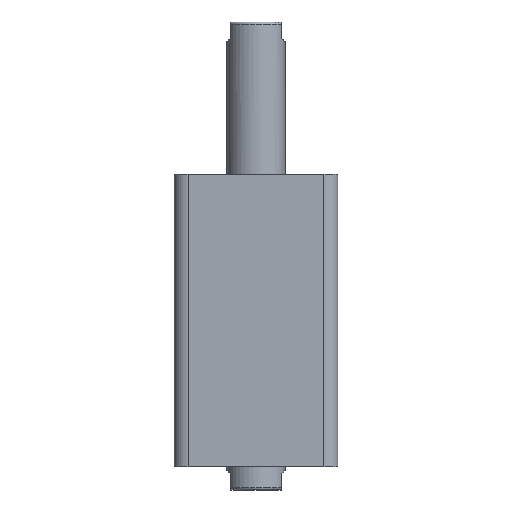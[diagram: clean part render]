
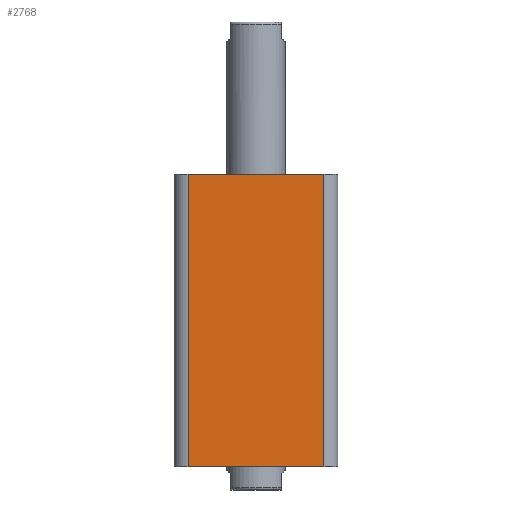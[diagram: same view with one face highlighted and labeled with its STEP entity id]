
A CAD part, front view. The second image highlights one B-rep face of the part: STEP entity #2768.
In plain terms, the highlighted planar face has unit normal (0, -1, 0).
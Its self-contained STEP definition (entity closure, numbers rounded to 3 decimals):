
#66 = VERTEX_POINT ( 'NONE', #1959 ) ;
#67 = VERTEX_POINT ( 'NONE', #1960 ) ;
#68 = VERTEX_POINT ( 'NONE', #1961 ) ;
#684 = ORIENTED_EDGE ( 'NONE', *, *, #1254, .T. ) ;
#815 = CARTESIAN_POINT ( 'NONE',  ( -35., -35., 0. ) ) ;
#825 = CARTESIAN_POINT ( 'NONE',  ( -35., -35., 125. ) ) ;
#826 = DIRECTION ( 'NONE',  ( 1., 0., 0. ) ) ;
#827 = CARTESIAN_POINT ( 'NONE',  ( -29., -35., 125. ) ) ;
#828 = DIRECTION ( 'NONE',  ( 0., 0., -1. ) ) ;
#829 = DIRECTION ( 'NONE',  ( 1., 0., 0. ) ) ;
#830 = CARTESIAN_POINT ( 'NONE',  ( 29., -35., 125. ) ) ;
#831 = DIRECTION ( 'NONE',  ( 0., 0., 1. ) ) ;
#1251 = EDGE_CURVE ( 'NONE', #2959, #68, #1878, .T. ) ;
#1252 = EDGE_CURVE ( 'NONE', #2959, #67, #1880, .T. ) ;
#1253 = EDGE_CURVE ( 'NONE', #67, #66, #1872, .T. ) ;
#1254 = EDGE_CURVE ( 'NONE', #66, #68, #1884, .T. ) ;
#1488 = AXIS2_PLACEMENT_3D ( 'NONE', #2182, #2186, #2187 ) ;
#1872 = LINE ( 'NONE', #815, #1885 ) ;
#1878 = LINE ( 'NONE', #825, #1881 ) ;
#1880 = LINE ( 'NONE', #827, #1883 ) ;
#1881 = VECTOR ( 'NONE', #826, 1000. ) ;
#1883 = VECTOR ( 'NONE', #828, 1000. ) ;
#1884 = LINE ( 'NONE', #830, #1887 ) ;
#1885 = VECTOR ( 'NONE', #829, 1000. ) ;
#1887 = VECTOR ( 'NONE', #831, 1000. ) ;
#1959 = CARTESIAN_POINT ( 'NONE',  ( 29., -35., 0. ) ) ;
#1960 = CARTESIAN_POINT ( 'NONE',  ( -29., -35., 0. ) ) ;
#1961 = CARTESIAN_POINT ( 'NONE',  ( 29., -35., 125. ) ) ;
#2182 = CARTESIAN_POINT ( 'NONE',  ( -35., -35., 125. ) ) ;
#2184 = PLANE ( 'NONE',  #1488 ) ;
#2186 = DIRECTION ( 'NONE',  ( 0., 1., 0. ) ) ;
#2187 = DIRECTION ( 'NONE',  ( 0., 0., 1. ) ) ;
#2328 = CARTESIAN_POINT ( 'NONE',  ( -29., -35., 125. ) ) ;
#2595 = FACE_OUTER_BOUND ( 'NONE', #3003, .T. ) ;
#2768 = ADVANCED_FACE ( 'NONE', ( #2595 ), #2184, .F. ) ;
#2939 = ORIENTED_EDGE ( 'NONE', *, *, #1253, .T. ) ;
#2941 = ORIENTED_EDGE ( 'NONE', *, *, #1251, .F. ) ;
#2943 = ORIENTED_EDGE ( 'NONE', *, *, #1252, .T. ) ;
#2959 = VERTEX_POINT ( 'NONE', #2328 ) ;
#3003 = EDGE_LOOP ( 'NONE', ( #2941, #2943, #2939, #684 ) ) ;
